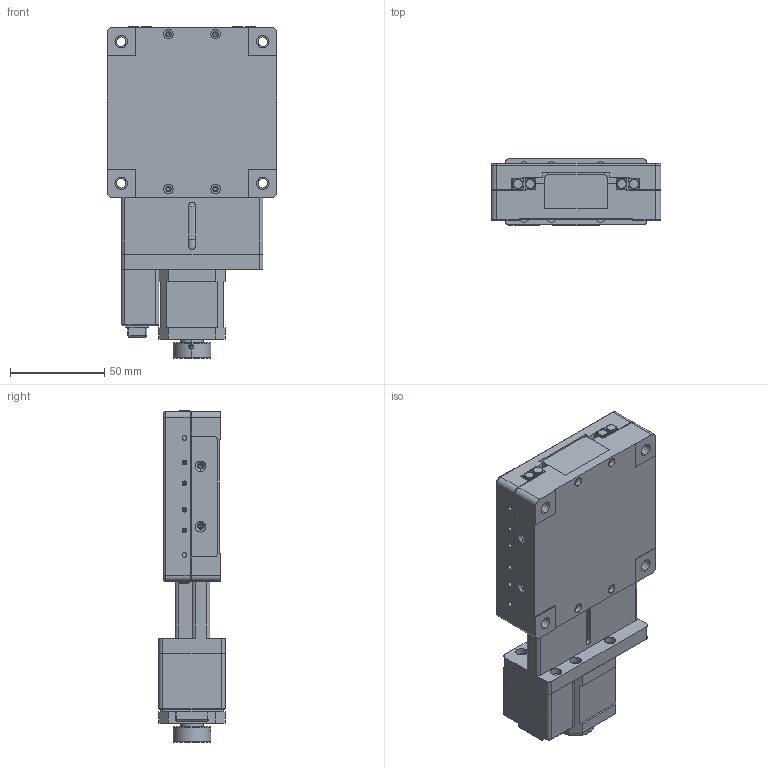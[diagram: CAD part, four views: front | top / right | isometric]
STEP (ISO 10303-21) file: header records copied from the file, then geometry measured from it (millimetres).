
FILE_DESCRIPTION (( 'STEP AP214' ), '1' );
FILE_NAME ('PT-GD50.STEP', '2023-01-01T03:44:47', ( '' ), ( '' ), 'SwSTEP 2.0', 'SolidWorks 2017', '' );
FILE_SCHEMA (( 'AUTOMOTIVE_DESIGN' ));
Length unit declared in the file: millimetre
Products named in the file (2): PT-GD50; 萇儕躇雄弇痄怢PT-GD50
Assembly tree (1 placements, depth 2):
  PT-GD50
    萇儕躇雄弇痄怢PT-GD50
Bounding box: 90 x 35 x 175.83 mm (x, y, z)
Surface area: 117403.2 mm2 (no closed solid volume)
Topology: 0 solids, 65 shells, 1799 faces, 4500 edges, 2840 vertices
Faces by surface type: plane 796, cylinder 671, cone 194, bspline 122, torus 16
Entity records: 59236 total; most frequent: CARTESIAN_POINT 15494, DIRECTION 9185, ORIENTED_EDGE 8708, EDGE_CURVE 4402, AXIS2_PLACEMENT_3D 3411, VERTEX_POINT 2840, LINE 2363, VECTOR 2363
